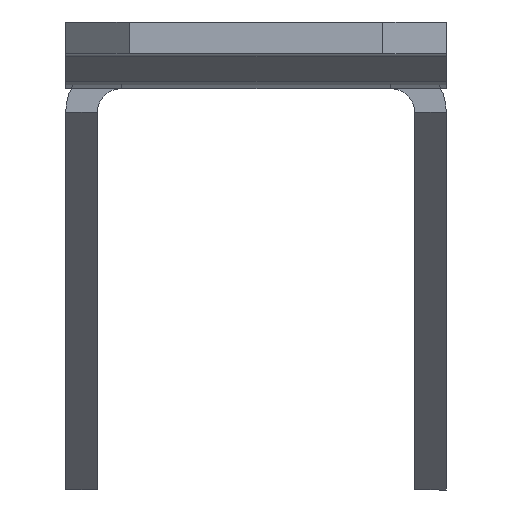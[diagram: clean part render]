
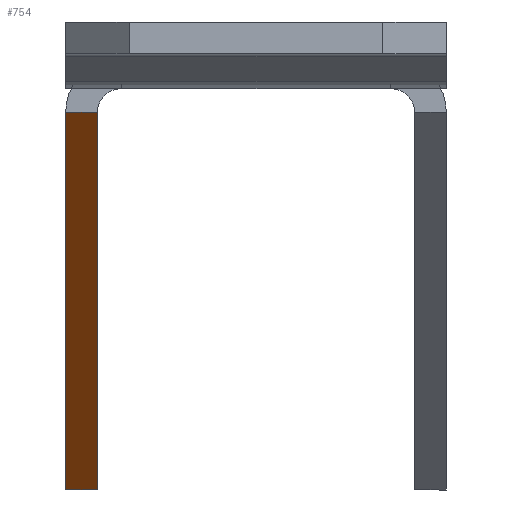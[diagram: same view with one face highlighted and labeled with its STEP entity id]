
A CAD part, left-side view. The second image highlights one B-rep face of the part: STEP entity #754.
In plain terms, the highlighted planar face has unit normal (-0.707, 0, -0.707).
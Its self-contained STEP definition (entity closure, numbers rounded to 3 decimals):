
#754 = ADVANCED_FACE ( 'NONE', ( #9564 ), #7580, .F. ) ;
#3502 = ORIENTED_EDGE ( 'NONE', *, *, #6852, .T. ) ;
#3503 = ORIENTED_EDGE ( 'NONE', *, *, #6855, .F. ) ;
#3504 = ORIENTED_EDGE ( 'NONE', *, *, #6858, .F. ) ;
#3505 = ORIENTED_EDGE ( 'NONE', *, *, #6862, .T. ) ;
#6852 = EDGE_CURVE ( 'NONE', #17641, #17643, #10901, .T. ) ;
#6855 = EDGE_CURVE ( 'NONE', #17639, #17643, #10903, .T. ) ;
#6858 = EDGE_CURVE ( 'NONE', #17652, #17639, #10905, .T. ) ;
#6862 = EDGE_CURVE ( 'NONE', #17652, #17641, #10909, .T. ) ;
#7578 = CARTESIAN_POINT ( 'NONE',  ( -257.5, -63., -1.5 ) ) ;
#7580 = PLANE ( 'NONE',  #7826 ) ;
#7582 = DIRECTION ( 'NONE',  ( 0.707, 0., 0.707 ) ) ;
#7583 = DIRECTION ( 'NONE',  ( 0.707, 0., -0.707 ) ) ;
#7826 = AXIS2_PLACEMENT_3D ( 'NONE', #7578, #7582, #7583 ) ;
#9390 = EDGE_LOOP ( 'NONE', ( #3502, #3503, #3504, #3505 ) ) ;
#9564 = FACE_OUTER_BOUND ( 'NONE', #9390, .T. ) ;
#10901 = LINE ( 'NONE', #13607, #10907 ) ;
#10903 = LINE ( 'NONE', #13606, #10911 ) ;
#10905 = LINE ( 'NONE', #13491, #10915 ) ;
#10907 = VECTOR ( 'NONE', #13487, 1000. ) ;
#10909 = LINE ( 'NONE', #13611, #10918 ) ;
#10911 = VECTOR ( 'NONE', #13612, 1000. ) ;
#10915 = VECTOR ( 'NONE', #13613, 1000. ) ;
#10918 = VECTOR ( 'NONE', #13615, 1000. ) ;
#13487 = DIRECTION ( 'NONE',  ( 0.707, 0., -0.707 ) ) ;
#13491 = CARTESIAN_POINT ( 'NONE',  ( 1.75, 10., -260.75 ) ) ;
#13606 = CARTESIAN_POINT ( 'NONE',  ( -233.7, -63., -25.3 ) ) ;
#13607 = CARTESIAN_POINT ( 'NONE',  ( 1.75, 12., -260.75 ) ) ;
#13611 = CARTESIAN_POINT ( 'NONE',  ( -257.5, 12., -1.5 ) ) ;
#13612 = DIRECTION ( 'NONE',  ( 0., 1., 0. ) ) ;
#13613 = DIRECTION ( 'NONE',  ( 0.707, 0., -0.707 ) ) ;
#13615 = DIRECTION ( 'NONE',  ( 0., 1., 0. ) ) ;
#17639 = VERTEX_POINT ( 'NONE', #21782 ) ;
#17641 = VERTEX_POINT ( 'NONE', #21783 ) ;
#17643 = VERTEX_POINT ( 'NONE', #21784 ) ;
#17652 = VERTEX_POINT ( 'NONE', #21788 ) ;
#21782 = CARTESIAN_POINT ( 'NONE',  ( -233.7, 10., -25.3 ) ) ;
#21783 = CARTESIAN_POINT ( 'NONE',  ( -257.5, 12., -1.5 ) ) ;
#21784 = CARTESIAN_POINT ( 'NONE',  ( -233.7, 12., -25.3 ) ) ;
#21788 = CARTESIAN_POINT ( 'NONE',  ( -257.5, 10., -1.5 ) ) ;
